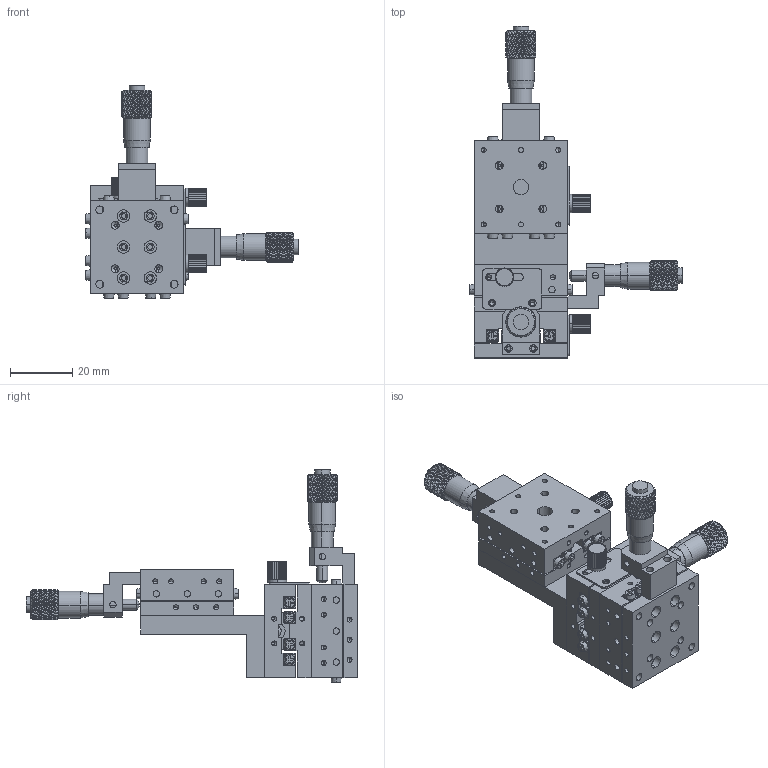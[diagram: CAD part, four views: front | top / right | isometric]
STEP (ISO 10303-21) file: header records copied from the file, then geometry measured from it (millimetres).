
FILE_DESCRIPTION (( 'STEP AP203' ), '1' );
FILE_NAME ('JCXYZ-30C.STEP', '2015-04-15T05:17:21', ( 'MMO' ), ( '' ), 'SwSTEP 2.0', 'SolidWorks 2013', '' );
FILE_SCHEMA (( 'CONFIG_CONTROL_DESIGN' ));
Length unit declared in the file: millimetre
Products named in the file (14): FC-NB-6; FB-JX-BK-C-01; JCX-30C; FB-JCX30-BD-01; JCX-30CR; JV1-30-7; JCXY-30C; FB-JCX30-BD-02; FB-JCX-BK-Z-06; JALB-71-R; JCX-30CRZ; FC-PL-19X13; JCXYZ-30C; FC-SJ-2
Assembly tree (38 placements, depth 4):
  JCXYZ-30C
    JCXY-30C
      JCX-30C
        FB-JCX30-BD-01
        JV1-30-7  x4
        FB-JCX30-BD-02
        JALB-71-R
        FC-PL-19X13
        FC-SJ-2
        FC-NB-6
        FB-JX-BK-C-01
      JCX-30CR
        FB-JCX30-BD-01
        JV1-30-7  x4
        FB-JCX30-BD-02
        JALB-71-R
        FB-JX-BK-C-01
        FC-PL-19X13
        FC-NB-6
        FC-SJ-2
    FB-JCX-BK-Z-06
    JCX-30CRZ
      FB-JCX30-BD-01
      JV1-30-7  x4
      FB-JCX30-BD-02
      JALB-71-R
      FB-JX-BK-C-01
      FC-PL-19X13
      FC-NB-6
      FC-SJ-2
Bounding box: 68.5 x 107 x 68.5 mm (x, y, z)
Volume: 51512.3 mm3; surface area: 41922.4 mm2
Topology: 34 solids, 34 shells, 4745 faces, 11430 edges, 6732 vertices
Faces by surface type: bspline 1728, cylinder 1608, plane 1151, cone 252, sphere 6
Entity records: 46510 total; most frequent: CARTESIAN_POINT 21604, ORIENTED_EDGE 5868, DIRECTION 3491, EDGE_CURVE 2934, VERTEX_POINT 1728, AXIS2_PLACEMENT_3D 1392, EDGE_LOOP 1378, ADVANCED_FACE 1250
